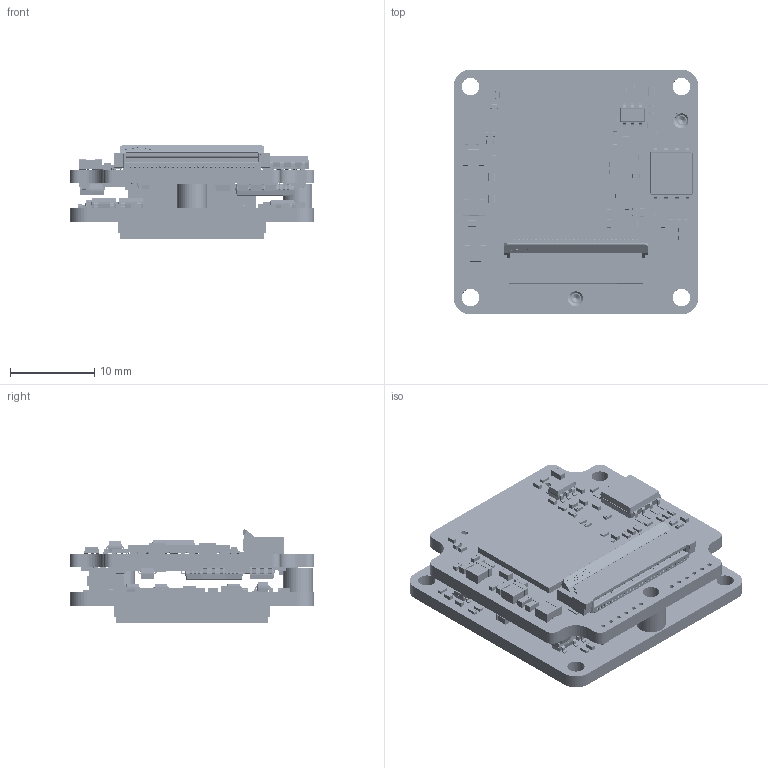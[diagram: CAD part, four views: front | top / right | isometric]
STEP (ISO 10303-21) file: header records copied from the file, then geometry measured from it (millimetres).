
FILE_DESCRIPTION(('FreeCAD Model'),'2;1');
FILE_NAME('Open CASCADE Shape Model','2026-04-20T11:01:20',(''),(''), 'Open CASCADE STEP processor 7.8','FreeCAD','Unknown');
FILE_SCHEMA(('AUTOMOTIVE_DESIGN { 1 0 10303 214 1 1 1 1 }'));
Length unit declared in the file: millimetre
Products named in the file (816): MV-MIPI-IMX265; RAW-MIPI-IMX265; SensorBoard_4hole; Pad076; Pad077; Pad078; Pad079; Pad080; Pad081; Pad082; Pad083; Pad084; Pad085; Pad086; Pad087; Pad088; Pad089; Pad090; Pad091; Pad092; Pad093; Pad094; Pad095; Pad096; Pad097; Pad098; Pad099; Pad100; Pad101; Pad026; Pad025; Pad024; Pad023; Pad022; Pad021; Pad020; Pad019; Pad018; Pad017; Pad016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
Assembly tree (815 placements, depth 3):
  MV-MIPI-IMX265
    RAW-MIPI-IMX265
      SensorBoard_4hole
      Pad076
      Pad077
      Pad078
      Pad079
      Pad080
      Pad081
      Pad082
      Pad083
      Pad084
      Pad085
      Pad086
      Pad087
      Pad088
      Pad089
      Pad090
      Pad091
      Pad092
      Pad093
      Pad094
      Pad095
      Pad096
      Pad097
      Pad098
      Pad099
      Pad100
      Pad101
      Pad026
      Pad025
      Pad024
      Pad023
      Pad022
      Pad021
      Pad020
      Pad019
      Pad018
      Pad017
      Pad016
      Pad015
      Pad014
      Pad013
      Pad012
      Pad011
      Pad010
      Pad009
      Pad008
      Pad007
      Pad006
      Pad005
      Pad004
      Pad003
      Body004
      TSOT_23_008
      TSOT_23_007
      TSOT_23_6
      SOT_024
      SOT_23
      C_0402_1005Metric085
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Bounding box: 29 x 29 x 11.11 mm (x, y, z)
Volume: 2675.8 mm3; surface area: 8199.4 mm2
Topology: 810 solids, 813 shells, 16411 faces, 43585 edges, 28055 vertices
Faces by surface type: plane 10588, cylinder 4738, sphere 652, bspline 423, cone 10
Entity records: 557695 total; most frequent: CARTESIAN_POINT 137472, ORIENTED_EDGE 84516, DIRECTION 79857, EDGE_CURVE 42281, LINE 29649, VECTOR 29649, VERTEX_POINT 28055, AXIS2_PLACEMENT_3D 25104
